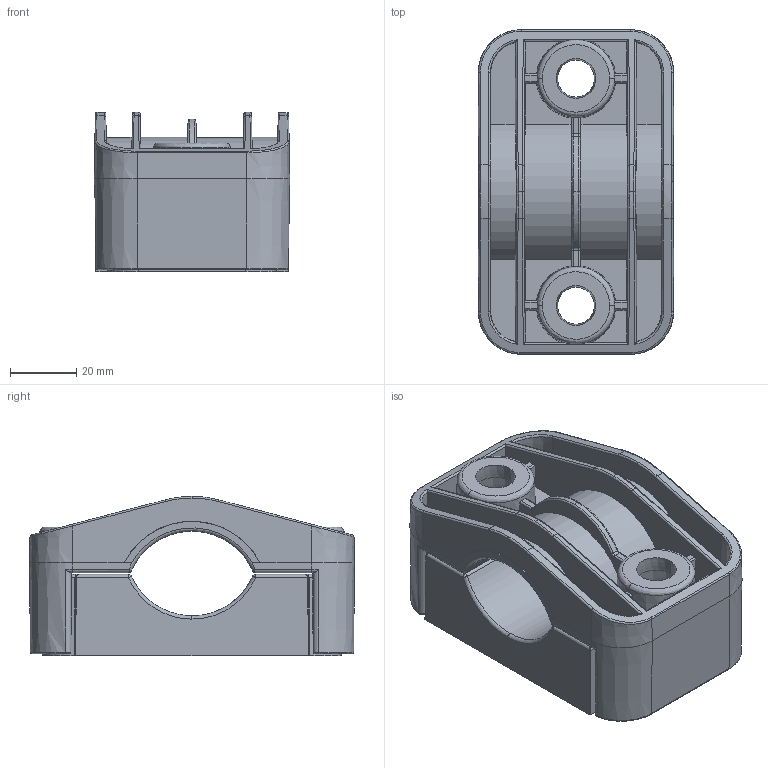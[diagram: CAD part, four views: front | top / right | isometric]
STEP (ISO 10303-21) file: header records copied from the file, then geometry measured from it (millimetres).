
FILE_DESCRIPTION (( 'STEP AP214' ), '1' );
FILE_NAME ('4.461.001.STEP', '2011-07-08T14:51:12', ( '£ukasz Cieæka' ), ( '' ), 'SwSTEP 2.0', 'SolidWorks 2010', '' );
FILE_SCHEMA (( 'AUTOMOTIVE_DESIGN' ));
Length unit declared in the file: millimetre
Products named in the file (3): 4.461.001; 4.461.001.01_A; 4.461.001.02_A
Assembly tree (2 placements, depth 2):
  4.461.001
    4.461.001.02_A
    4.461.001.01_A
Bounding box: 59 x 98 x 48 mm (x, y, z)
Volume: 99808.2 mm3; surface area: 62434.1 mm2
Topology: 2 solids, 2 shells, 312 faces, 806 edges, 500 vertices
Faces by surface type: plane 101, cylinder 80, bspline 76, cone 55
Entity records: 16417 total; most frequent: CARTESIAN_POINT 6032, ORIENTED_EDGE 1604, DIRECTION 1228, EDGE_CURVE 802, VERTEX_POINT 500, AXIS2_PLACEMENT_3D 446, VECTOR 336, LINE 336
